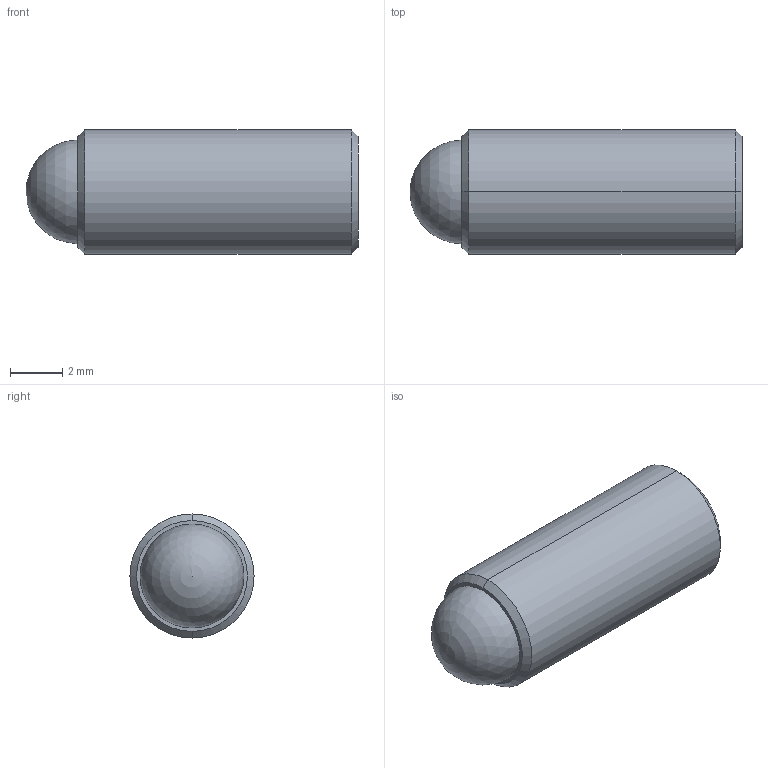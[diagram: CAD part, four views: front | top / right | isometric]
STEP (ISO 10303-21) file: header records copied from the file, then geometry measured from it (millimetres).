
FILE_DESCRIPTION (( 'STEP AP214' ), '1' );
FILE_NAME ('TS187-100-500-AA.STEP', '2013-02-11T17:07:02', ( 'workpc' ), ( 'Microsoft' ), 'SwSTEP 2.0', 'SolidWorks 2013', '' );
FILE_SCHEMA (( 'AUTOMOTIVE_DESIGN' ));
Length unit declared in the file: inch
Products named in the file (1): TS187-100-500-AA
Bounding box: 12.7 x 4.75 x 4.75 mm (x, y, z)
Volume: 186 mm3; surface area: 283.8 mm2
Topology: 2 solids, 2 shells, 20 faces, 45 edges, 29 vertices
Faces by surface type: plane 10, cylinder 4, cone 4, sphere 2
Entity records: 599 total; most frequent: DIRECTION 96, CARTESIAN_POINT 87, ORIENTED_EDGE 80, EDGE_CURVE 40, AXIS2_PLACEMENT_3D 35, LINE 26, VECTOR 26, VERTEX_POINT 26
